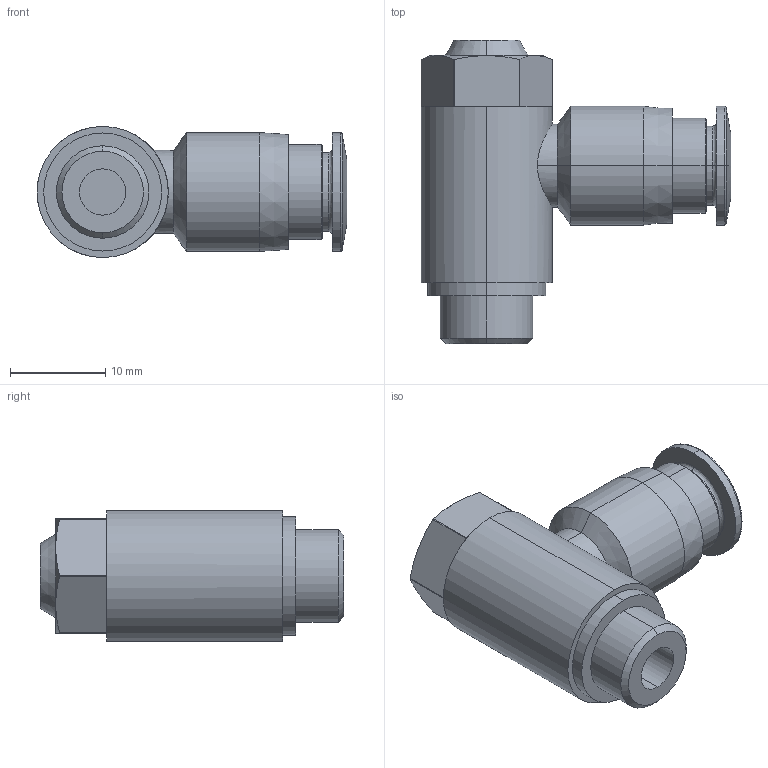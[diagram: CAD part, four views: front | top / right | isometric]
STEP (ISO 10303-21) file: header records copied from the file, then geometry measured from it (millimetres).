
FILE_DESCRIPTION (( 'STEP AP203' ), '1' );
FILE_NAME ('14010024.STEP', '2016-11-16T16:47:35', ( '' ), ( '' ), 'SwSTEP 2.0', 'SolidWorks 2015', '' );
FILE_SCHEMA (( 'CONFIG_CONTROL_DESIGN' ));
Length unit declared in the file: millimetre
Products named in the file (1): 14010024
Bounding box: 32.6 x 31.95 x 13.8 mm (x, y, z)
Volume: 5448.7 mm3; surface area: 2937.9 mm2
Topology: 1 solids, 1 shells, 79 faces, 173 edges, 107 vertices
Faces by surface type: plane 29, cylinder 24, cone 20, bspline 6
Entity records: 2503 total; most frequent: CARTESIAN_POINT 669, DIRECTION 392, ORIENTED_EDGE 346, EDGE_CURVE 173, AXIS2_PLACEMENT_3D 162, VERTEX_POINT 107, EDGE_LOOP 90, CIRCLE 88
